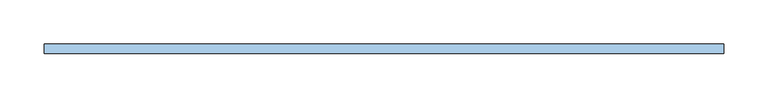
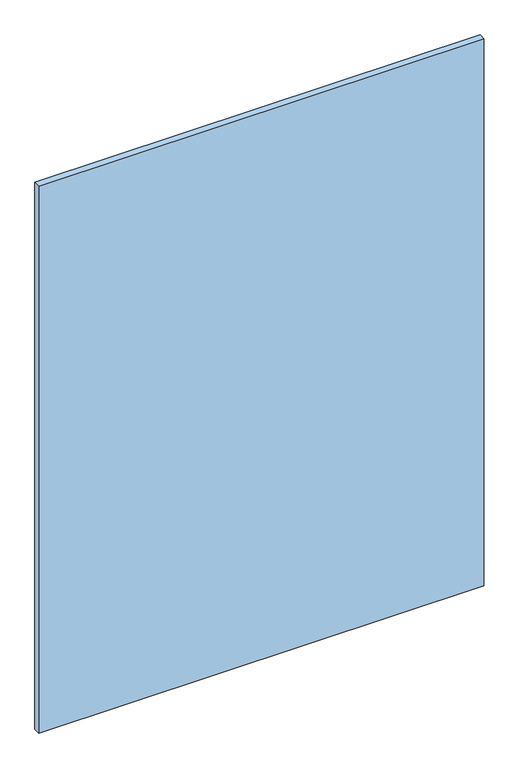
"""IFC4 building model written with IfcOpenShell, lengths in millimetres: window geometry, espejo biselado sin marco : ESP1-espejo biselado 77 x 100."""

from ifc_helpers import new_model, si_unit, origin, origin_with_axes, place, context, project, spatial, polyline, outline, extrude, source, transform, mapped, element, save


def window_47e7c2ce(model_context):
    return source(origin(), model_context, "Body", "SweptSolid", [
        extrude(outline(polyline([(-385.0, 19.0), (-385.0, 30.0), (385.0, 30.0), (385.0, 19.0), (-385.0, 19.0)])), origin_with_axes(), (0.0, 0.0, 1.0), 1000.0),
    ])


if __name__ == "__main__":
    model = new_model("IFC4")
    model_context = context("Model", 3, world=origin())
    ifc_project = project(units=[si_unit("LENGTHUNIT", "METRE", prefix="MILLI")], contexts=[model_context])
    site = spatial("IfcSite", under=ifc_project)
    building = spatial("IfcBuilding", under=site)
    placement = place(None, origin())
    window_shape = window_47e7c2ce(model_context)
    element("IfcWindow", 1, ObjectType="espejo biselado sin marco : ESP1-espejo biselado 77 x 100", at=placement, inside=building, context=model_context, shape_type="MappedRepresentation", body=[
        mapped(window_shape, transform((0.0, 0.0, 0.0), x_axis=(1.0, 0.0, 0.0), y_axis=(0.0, 1.0, 0.0), z_axis=(0.0, 0.0, 1.0))),
    ])
    save(model, "model.ifc")
